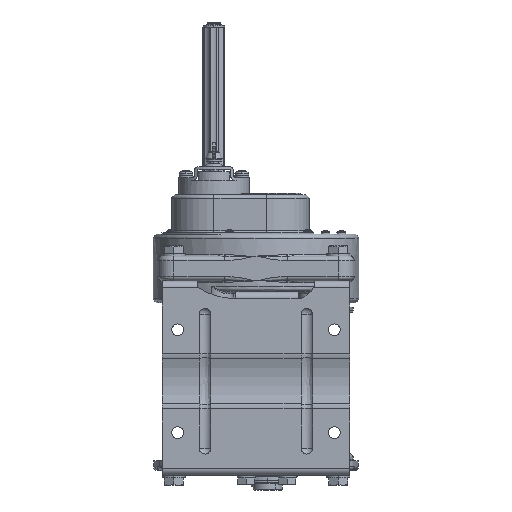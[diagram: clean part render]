
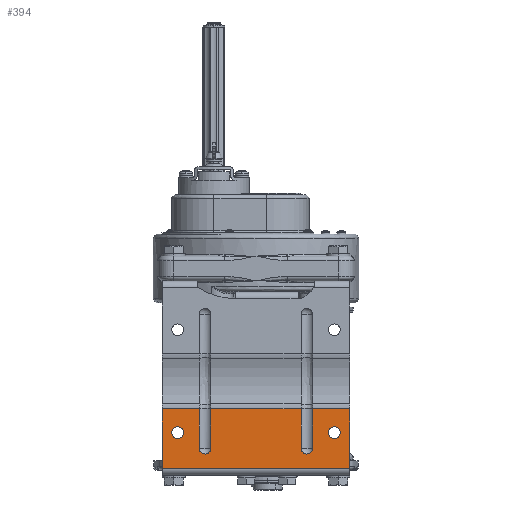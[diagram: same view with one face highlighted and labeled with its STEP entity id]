
A CAD part, front view. The second image highlights one B-rep face of the part: STEP entity #394.
In plain terms, the highlighted planar face has unit normal (0, -1, 0).
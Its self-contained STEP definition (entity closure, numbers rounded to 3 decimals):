
#394=ADVANCED_FACE('',(#5513,#5514,#5515),#5512,.T.);
#5512=PLANE('',#31623);
#5513=FACE_OUTER_BOUND('',#31624,.T.);
#5514=FACE_BOUND('',#31625,.T.);
#5515=FACE_BOUND('',#31626,.T.);
#31620=CARTESIAN_POINT('',(-375.965,0.,280.998));
#31621=DIRECTION('',(0.,-1.,0.));
#31622=DIRECTION('',(0.,0.,1.));
#31623=AXIS2_PLACEMENT_3D('',#31620,#31621,#31622);
#31624=EDGE_LOOP('',(#50603,#50604,#50605,#50606,#50607,#50608,#50609,#50610,#50611,#50612,#50613,#50614));
#31625=EDGE_LOOP('',(#50615,#50616));
#31626=EDGE_LOOP('',(#50617,#50618));
#50603=ORIENTED_EDGE('',*,*,#63075,.T.);
#50604=ORIENTED_EDGE('',*,*,#63076,.F.);
#50605=ORIENTED_EDGE('',*,*,#62967,.T.);
#50606=ORIENTED_EDGE('',*,*,#63077,.T.);
#50607=ORIENTED_EDGE('',*,*,#63078,.T.);
#50608=ORIENTED_EDGE('',*,*,#63065,.F.);
#50609=ORIENTED_EDGE('',*,*,#62952,.F.);
#50610=ORIENTED_EDGE('',*,*,#63064,.T.);
#50611=ORIENTED_EDGE('',*,*,#63074,.T.);
#50612=ORIENTED_EDGE('',*,*,#63079,.F.);
#50613=ORIENTED_EDGE('',*,*,#63080,.F.);
#50614=ORIENTED_EDGE('',*,*,#63081,.T.);
#50615=ORIENTED_EDGE('',*,*,#63082,.F.);
#50616=ORIENTED_EDGE('',*,*,#63083,.F.);
#50617=ORIENTED_EDGE('',*,*,#63084,.F.);
#50618=ORIENTED_EDGE('',*,*,#63085,.F.);
#62952=EDGE_CURVE('',#75008,#75016,#75017,.T.);
#62967=EDGE_CURVE('',#75119,#75111,#75120,.T.);
#63064=EDGE_CURVE('',#75008,#75133,#75765,.T.);
#63065=EDGE_CURVE('',#75016,#75132,#75771,.T.);
#63074=EDGE_CURVE('',#75133,#75823,#75830,.T.);
#63075=EDGE_CURVE('',#75836,#75160,#75837,.T.);
#63076=EDGE_CURVE('',#75119,#75160,#75843,.T.);
#63077=EDGE_CURVE('',#75111,#75161,#75849,.T.);
#63078=EDGE_CURVE('',#75161,#75132,#75855,.T.);
#63079=EDGE_CURVE('',#75861,#75823,#75862,.T.);
#63080=EDGE_CURVE('',#75868,#75861,#75869,.T.);
#63081=EDGE_CURVE('',#75868,#75836,#75875,.T.);
#63082=EDGE_CURVE('',#75881,#75882,#75883,.T.);
#63083=EDGE_CURVE('',#75882,#75881,#75889,.T.);
#63084=EDGE_CURVE('',#75895,#75896,#75897,.T.);
#63085=EDGE_CURVE('',#75896,#75895,#75903,.T.);
#75008=VERTEX_POINT('',#116063);
#75016=VERTEX_POINT('',#116069);
#75017=CIRCLE('',#116073,6.);
#75111=VERTEX_POINT('',#116132);
#75119=VERTEX_POINT('',#116138);
#75120=CIRCLE('',#116142,6.);
#75132=VERTEX_POINT('',#116147);
#75133=VERTEX_POINT('',#116148);
#75160=VERTEX_POINT('',#116167);
#75161=VERTEX_POINT('',#116168);
#75765=LINE('',#116559,#116560);
#75771=LINE('',#116562,#116563);
#75823=VERTEX_POINT('',#116593);
#75830=LINE('',#116598,#116599);
#75836=VERTEX_POINT('',#116601);
#75837=LINE('',#116602,#116603);
#75843=LINE('',#116605,#116606);
#75849=LINE('',#116608,#116609);
#75855=LINE('',#116611,#116612);
#75861=VERTEX_POINT('',#116614);
#75862=LINE('',#116615,#116616);
#75868=VERTEX_POINT('',#116618);
#75869=LINE('',#116619,#116620);
#75875=LINE('',#116622,#116623);
#75881=VERTEX_POINT('',#116625);
#75882=VERTEX_POINT('',#116626);
#75883=CIRCLE('',#116630,6.);
#75889=CIRCLE('',#116634,6.);
#75895=VERTEX_POINT('',#116635);
#75896=VERTEX_POINT('',#116636);
#75897=CIRCLE('',#116640,6.);
#75903=CIRCLE('',#116644,6.);
#116063=CARTESIAN_POINT('',(-539.965,0.,307.896));
#116069=CARTESIAN_POINT('',(-527.965,0.,307.896));
#116070=CARTESIAN_POINT('',(-533.965,0.,307.896));
#116071=DIRECTION('',(0.,-1.,0.));
#116072=DIRECTION('',(1.,0.,0.));
#116073=AXIS2_PLACEMENT_3D('',#116070,#116071,#116072);
#116132=CARTESIAN_POINT('',(-435.965,0.,307.896));
#116138=CARTESIAN_POINT('',(-423.965,0.,307.896));
#116139=CARTESIAN_POINT('',(-429.965,0.,307.896));
#116140=DIRECTION('',(0.,1.,0.));
#116141=DIRECTION('',(1.,0.,0.));
#116142=AXIS2_PLACEMENT_3D('',#116139,#116140,#116141);
#116147=CARTESIAN_POINT('',(-527.965,0.,348.102));
#116148=CARTESIAN_POINT('',(-539.965,0.,348.102));
#116167=CARTESIAN_POINT('',(-423.965,0.,348.102));
#116168=CARTESIAN_POINT('',(-435.965,0.,348.102));
#116559=CARTESIAN_POINT('',(-539.965,0.,307.896));
#116560=VECTOR('',#116561,40.206);
#116561=DIRECTION('',(0.,0.,1.));
#116562=CARTESIAN_POINT('',(-527.965,0.,307.896));
#116563=VECTOR('',#116564,40.206);
#116564=DIRECTION('',(0.,0.,1.));
#116593=CARTESIAN_POINT('',(-577.965,0.,348.102));
#116598=CARTESIAN_POINT('',(-539.965,0.,348.102));
#116599=VECTOR('',#116600,38.);
#116600=DIRECTION('',(-1.,0.,0.));
#116601=CARTESIAN_POINT('',(-385.965,0.,348.102));
#116602=CARTESIAN_POINT('',(-385.965,0.,348.102));
#116603=VECTOR('',#116604,38.);
#116604=DIRECTION('',(-1.,0.,0.));
#116605=CARTESIAN_POINT('',(-423.965,0.,307.896));
#116606=VECTOR('',#116607,40.206);
#116607=DIRECTION('',(0.,0.,1.));
#116608=CARTESIAN_POINT('',(-435.965,0.,307.896));
#116609=VECTOR('',#116610,40.206);
#116610=DIRECTION('',(0.,0.,1.));
#116611=CARTESIAN_POINT('',(-435.965,0.,348.102));
#116612=VECTOR('',#116613,92.);
#116613=DIRECTION('',(-1.,0.,0.));
#116614=CARTESIAN_POINT('',(-577.965,0.,287.098));
#116615=CARTESIAN_POINT('',(-577.965,0.,287.098));
#116616=VECTOR('',#116617,61.004);
#116617=DIRECTION('',(0.,0.,1.));
#116618=CARTESIAN_POINT('',(-385.965,0.,287.098));
#116619=CARTESIAN_POINT('',(-385.965,0.,287.098));
#116620=VECTOR('',#116621,192.);
#116621=DIRECTION('',(-1.,0.,0.));
#116622=CARTESIAN_POINT('',(-385.965,0.,287.098));
#116623=VECTOR('',#116624,61.004);
#116624=DIRECTION('',(0.,0.,1.));
#116625=CARTESIAN_POINT('',(-401.965,0.,317.798));
#116626=CARTESIAN_POINT('',(-401.965,0.,329.798));
#116627=CARTESIAN_POINT('',(-401.965,0.,323.798));
#116628=DIRECTION('',(0.,-1.,0.));
#116629=DIRECTION('',(0.,0.,1.));
#116630=AXIS2_PLACEMENT_3D('',#116627,#116628,#116629);
#116631=CARTESIAN_POINT('',(-401.965,0.,323.798));
#116632=DIRECTION('',(0.,-1.,0.));
#116633=DIRECTION('',(0.,0.,1.));
#116634=AXIS2_PLACEMENT_3D('',#116631,#116632,#116633);
#116635=CARTESIAN_POINT('',(-561.965,0.,317.798));
#116636=CARTESIAN_POINT('',(-561.965,0.,329.798));
#116637=CARTESIAN_POINT('',(-561.965,0.,323.798));
#116638=DIRECTION('',(0.,-1.,0.));
#116639=DIRECTION('',(0.,0.,1.));
#116640=AXIS2_PLACEMENT_3D('',#116637,#116638,#116639);
#116641=CARTESIAN_POINT('',(-561.965,0.,323.798));
#116642=DIRECTION('',(0.,-1.,0.));
#116643=DIRECTION('',(0.,0.,1.));
#116644=AXIS2_PLACEMENT_3D('',#116641,#116642,#116643);
